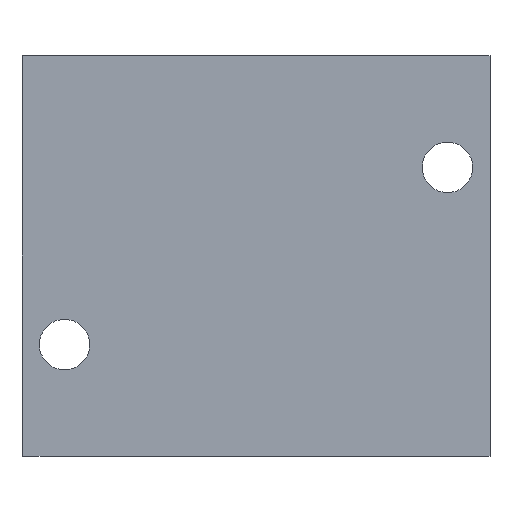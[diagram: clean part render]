
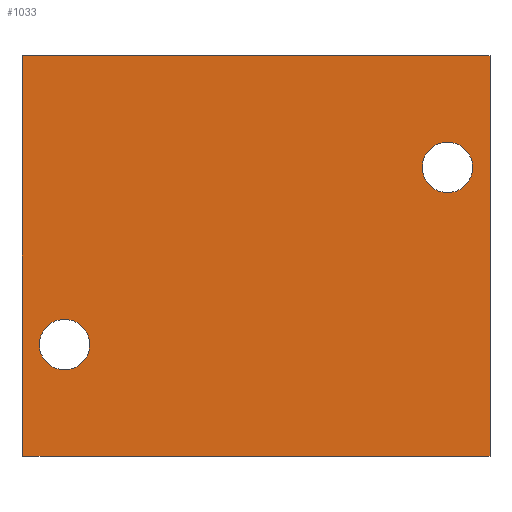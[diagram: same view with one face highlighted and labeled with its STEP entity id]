
A CAD part, front view. The second image highlights one B-rep face of the part: STEP entity #1033.
In plain terms, the highlighted planar face has unit normal (0, -1, 0).
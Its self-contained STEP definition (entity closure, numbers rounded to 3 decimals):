
#31 = DIRECTION ( 'NONE',  ( 0., -1., 0. ) ) ;
#40 = LINE ( 'NONE', #1026, #944 ) ;
#69 = CARTESIAN_POINT ( 'NONE',  ( 66., -44., 56.5 ) ) ;
#119 = EDGE_CURVE ( 'NONE', #512, #346, #489, .T. ) ;
#137 = VERTEX_POINT ( 'NONE', #263 ) ;
#147 = CIRCLE ( 'NONE', #1277, 7.125 ) ;
#155 = DIRECTION ( 'NONE',  ( 0., 0., -1. ) ) ;
#186 = DIRECTION ( 'NONE',  ( 0., 0., -1. ) ) ;
#204 = AXIS2_PLACEMENT_3D ( 'NONE', #387, #1007, #270 ) ;
#209 = EDGE_LOOP ( 'NONE', ( #1097, #1001 ) ) ;
#213 = CARTESIAN_POINT ( 'NONE',  ( 66., -44., 56.5 ) ) ;
#263 = CARTESIAN_POINT ( 'NONE',  ( 54., -44., 32.125 ) ) ;
#270 = DIRECTION ( 'NONE',  ( 0., 0., 1. ) ) ;
#317 = ORIENTED_EDGE ( 'NONE', *, *, #525, .F. ) ;
#324 = ORIENTED_EDGE ( 'NONE', *, *, #586, .F. ) ;
#328 = DIRECTION ( 'NONE',  ( 0., 0., -1. ) ) ;
#329 = VECTOR ( 'NONE', #155, 1000. ) ;
#338 = DIRECTION ( 'NONE',  ( 0., -1., 0. ) ) ;
#342 = DIRECTION ( 'NONE',  ( 0., -1., 0. ) ) ;
#346 = VERTEX_POINT ( 'NONE', #1252 ) ;
#372 = VERTEX_POINT ( 'NONE', #1170 ) ;
#387 = CARTESIAN_POINT ( 'NONE',  ( -66., -44., 56.5 ) ) ;
#397 = VECTOR ( 'NONE', #928, 1000. ) ;
#471 = EDGE_CURVE ( 'NONE', #951, #512, #40, .T. ) ;
#489 = LINE ( 'NONE', #213, #667 ) ;
#497 = EDGE_LOOP ( 'NONE', ( #1023, #1223, #1010, #625 ) ) ;
#512 = VERTEX_POINT ( 'NONE', #69 ) ;
#525 = EDGE_CURVE ( 'NONE', #884, #137, #843, .T. ) ;
#536 = LINE ( 'NONE', #935, #397 ) ;
#549 = EDGE_LOOP ( 'NONE', ( #317, #324 ) ) ;
#586 = EDGE_CURVE ( 'NONE', #137, #884, #959, .T. ) ;
#594 = AXIS2_PLACEMENT_3D ( 'NONE', #1537, #342, #833 ) ;
#625 = ORIENTED_EDGE ( 'NONE', *, *, #1067, .T. ) ;
#650 = PLANE ( 'NONE',  #204 ) ;
#659 = CARTESIAN_POINT ( 'NONE',  ( -66., -44., 56.5 ) ) ;
#667 = VECTOR ( 'NONE', #328, 1000. ) ;
#676 = CARTESIAN_POINT ( 'NONE',  ( 54., -44., 25. ) ) ;
#736 = CARTESIAN_POINT ( 'NONE',  ( -54., -44., -25. ) ) ;
#737 = EDGE_CURVE ( 'NONE', #1366, #372, #1093, .T. ) ;
#753 = FACE_BOUND ( 'NONE', #549, .T. ) ;
#778 = FACE_BOUND ( 'NONE', #209, .T. ) ;
#810 = CARTESIAN_POINT ( 'NONE',  ( 54., -44., 17.875 ) ) ;
#833 = DIRECTION ( 'NONE',  ( 0., 0., -1. ) ) ;
#843 = CIRCLE ( 'NONE', #1509, 7.125 ) ;
#854 = EDGE_CURVE ( 'NONE', #919, #346, #536, .T. ) ;
#884 = VERTEX_POINT ( 'NONE', #810 ) ;
#919 = VERTEX_POINT ( 'NONE', #1372 ) ;
#928 = DIRECTION ( 'NONE',  ( 1., 0., 0. ) ) ;
#935 = CARTESIAN_POINT ( 'NONE',  ( -66., -44., -56.5 ) ) ;
#939 = DIRECTION ( 'NONE',  ( 0., 0., -1. ) ) ;
#944 = VECTOR ( 'NONE', #1477, 1000. ) ;
#951 = VERTEX_POINT ( 'NONE', #1089 ) ;
#959 = CIRCLE ( 'NONE', #594, 7.125 ) ;
#988 = DIRECTION ( 'NONE',  ( 0., 0., -1. ) ) ;
#997 = LINE ( 'NONE', #659, #329 ) ;
#1001 = ORIENTED_EDGE ( 'NONE', *, *, #1300, .F. ) ;
#1007 = DIRECTION ( 'NONE',  ( 0., 1., 0. ) ) ;
#1010 = ORIENTED_EDGE ( 'NONE', *, *, #471, .F. ) ;
#1023 = ORIENTED_EDGE ( 'NONE', *, *, #854, .T. ) ;
#1026 = CARTESIAN_POINT ( 'NONE',  ( -66., -44., 56.5 ) ) ;
#1033 = ADVANCED_FACE ( 'NONE', ( #753, #778, #1124 ), #650, .F. ) ;
#1067 = EDGE_CURVE ( 'NONE', #951, #919, #997, .T. ) ;
#1089 = CARTESIAN_POINT ( 'NONE',  ( -66., -44., 56.5 ) ) ;
#1093 = CIRCLE ( 'NONE', #1286, 7.125 ) ;
#1097 = ORIENTED_EDGE ( 'NONE', *, *, #737, .F. ) ;
#1124 = FACE_OUTER_BOUND ( 'NONE', #497, .T. ) ;
#1170 = CARTESIAN_POINT ( 'NONE',  ( -54., -44., -17.875 ) ) ;
#1223 = ORIENTED_EDGE ( 'NONE', *, *, #119, .F. ) ;
#1252 = CARTESIAN_POINT ( 'NONE',  ( 66., -44., -56.5 ) ) ;
#1277 = AXIS2_PLACEMENT_3D ( 'NONE', #1408, #338, #939 ) ;
#1286 = AXIS2_PLACEMENT_3D ( 'NONE', #736, #1446, #988 ) ;
#1300 = EDGE_CURVE ( 'NONE', #372, #1366, #147, .T. ) ;
#1366 = VERTEX_POINT ( 'NONE', #1395 ) ;
#1372 = CARTESIAN_POINT ( 'NONE',  ( -66., -44., -56.5 ) ) ;
#1395 = CARTESIAN_POINT ( 'NONE',  ( -54., -44., -32.125 ) ) ;
#1408 = CARTESIAN_POINT ( 'NONE',  ( -54., -44., -25. ) ) ;
#1446 = DIRECTION ( 'NONE',  ( 0., -1., 0. ) ) ;
#1477 = DIRECTION ( 'NONE',  ( 1., 0., 0. ) ) ;
#1509 = AXIS2_PLACEMENT_3D ( 'NONE', #676, #31, #186 ) ;
#1537 = CARTESIAN_POINT ( 'NONE',  ( 54., -44., 25. ) ) ;
